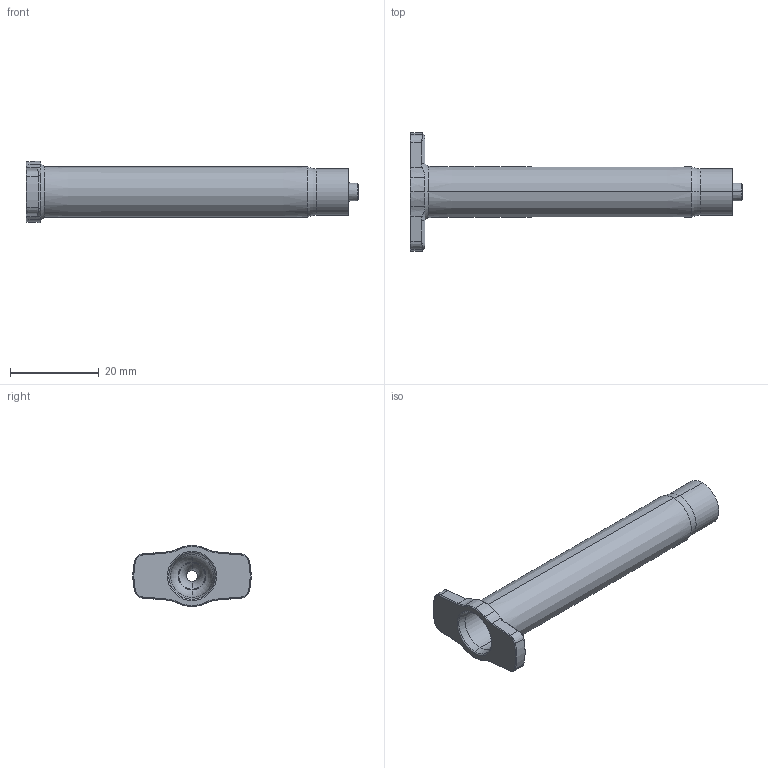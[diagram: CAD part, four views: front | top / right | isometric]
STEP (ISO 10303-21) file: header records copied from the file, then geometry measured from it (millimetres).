
FILE_DESCRIPTION (( 'STEP AP214' ), '1' );
FILE_NAME ('8001045_CUS.STEP', '2022-06-03T01:50:23', ( '' ), ( '' ), 'SwSTEP 2.0', 'SolidWorks 2020', '' );
FILE_SCHEMA (( 'AUTOMOTIVE_DESIGN' ));
Length unit declared in the file: millimetre
Products named in the file (1): 8001045_CUS
Bounding box: 74.7 x 26.68 x 13.8 mm (x, y, z)
Volume: 2952.2 mm3; surface area: 5518.3 mm2
Topology: 1 solids, 1 shells, 238 faces, 583 edges, 361 vertices
Faces by surface type: plane 62, cone 57, torus 54, cylinder 34, bspline 31
Entity records: 9116 total; most frequent: CARTESIAN_POINT 3620, ORIENTED_EDGE 1166, DIRECTION 1126, EDGE_CURVE 583, AXIS2_PLACEMENT_3D 441, VERTEX_POINT 361, EDGE_LOOP 254, VECTOR 244
